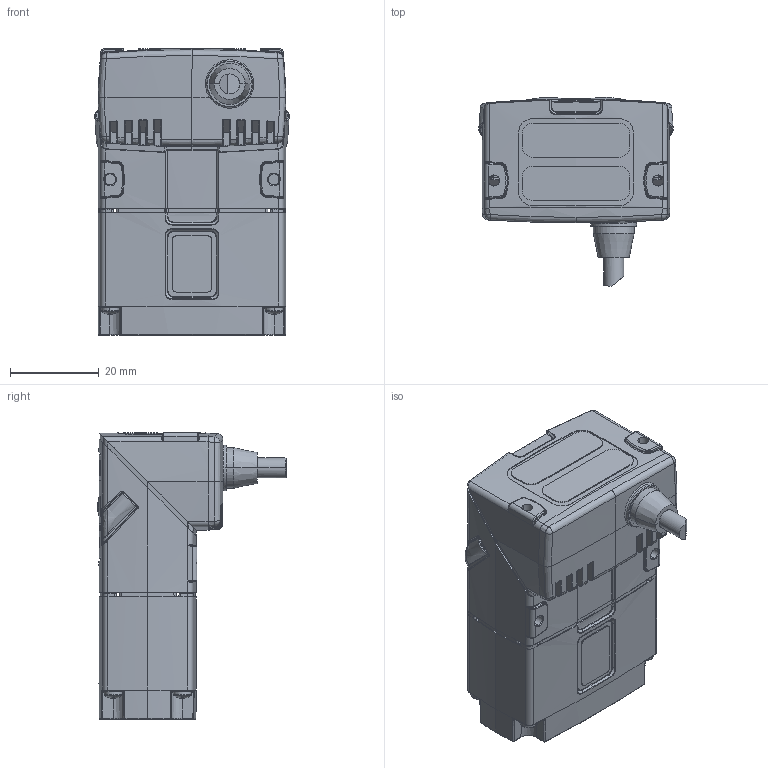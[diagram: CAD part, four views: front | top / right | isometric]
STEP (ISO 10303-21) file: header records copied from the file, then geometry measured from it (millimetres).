
FILE_DESCRIPTION (( 'STEP AP203' ), '1' );
FILE_NAME ('DM15X_16mm_angled.STEP', '2016-04-15T11:50:27', ( '' ), ( '' ), 'SwSTEP 2.0', 'SolidWorks 2014', '' );
FILE_SCHEMA (( 'CONFIG_CONTROL_DESIGN' ));
Products named in the file (1): DM15X_16mm_angled
Bounding box: 43.87 x 42.67 x 64.74 mm (x, y, z)
Surface area: 13662.4 mm2 (no closed solid volume)
Topology: 0 solids, 34 shells, 1177 faces, 3921 edges, 2674 vertices
Faces by surface type: bspline 504, plane 268, cylinder 253, cone 80, torus 60, sphere 12
Entity records: 58627 total; most frequent: CARTESIAN_POINT 30372, ORIENTED_EDGE 6402, DIRECTION 4322, EDGE_CURVE 3899, VERTEX_POINT 2674, B_SPLINE_CURVE_WITH_KNOTS 1628, AXIS2_PLACEMENT_3D 1624, EDGE_LOOP 1250
